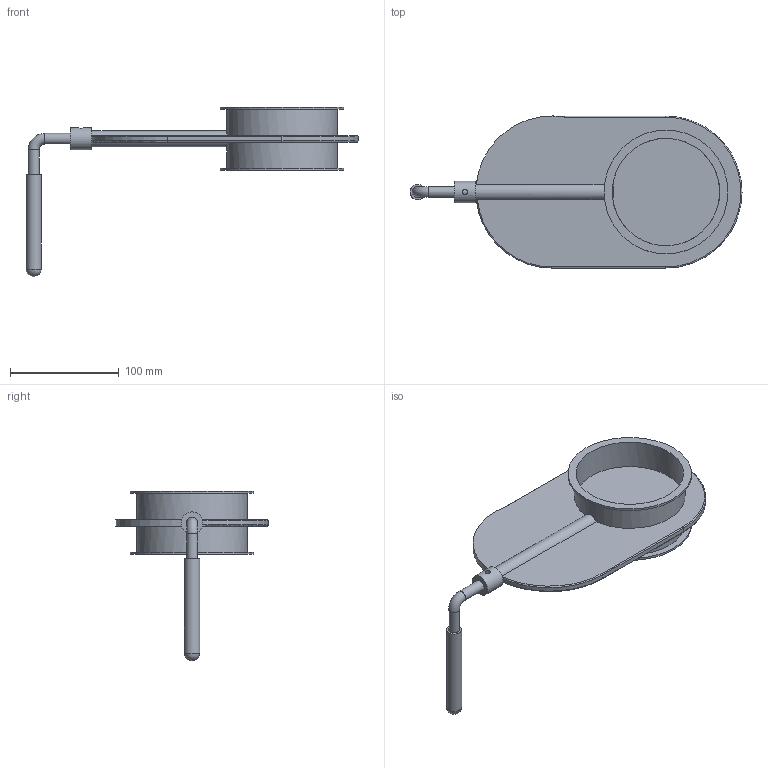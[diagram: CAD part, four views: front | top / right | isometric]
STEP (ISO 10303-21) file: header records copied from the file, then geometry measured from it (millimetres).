
FILE_DESCRIPTION((''),'2;1');
FILE_NAME('U:\Wolfgang\Marcel-3D\fertig\Kapitel 9\1011077.stp','2011-10-11T12:57:57',('iwienholt'),(''),'Autodesk Inventor 2010','Autodesk Inventor 2010','');
FILE_SCHEMA(('AUTOMOTIVE_DESIGN { 1 0 10303 214 1 1 1 1 }'));
Length unit declared in the file: millimetre
Products named in the file (3): 1011077; 1011077-1; Hebel-Ronde DN100
Assembly tree (2 placements, depth 2):
  1011077
    1011077-1
    Hebel-Ronde DN100
Bounding box: 305.74 x 140.09 x 155.95 mm (x, y, z)
Volume: 183734.7 mm3; surface area: 175205.2 mm2
Topology: 3 solids, 3 shells, 53 faces, 131 edges, 84 vertices
Faces by surface type: cylinder 25, plane 22, torus 5, sphere 1
Full cylindrical faces by diameter (mm): 4.917 x1, 10 x2, 10.5 x1, 14 x1, 15 x1, 20 x1, 99 x2, 102 x2, 114 x2
Entity records: 1696 total; most frequent: CARTESIAN_POINT 457, DIRECTION 254, ORIENTED_EDGE 208, AXIS2_PLACEMENT_3D 108, EDGE_CURVE 104, EDGE_LOOP 76, VERTEX_POINT 74, FACE_OUTER_BOUND 53
